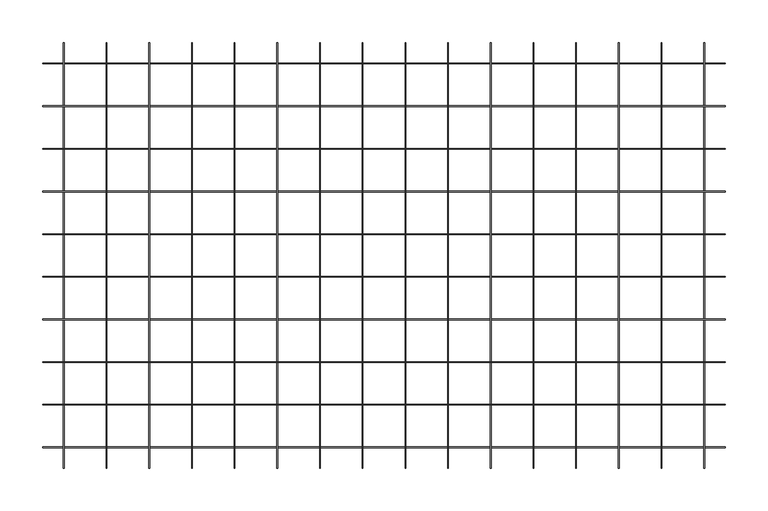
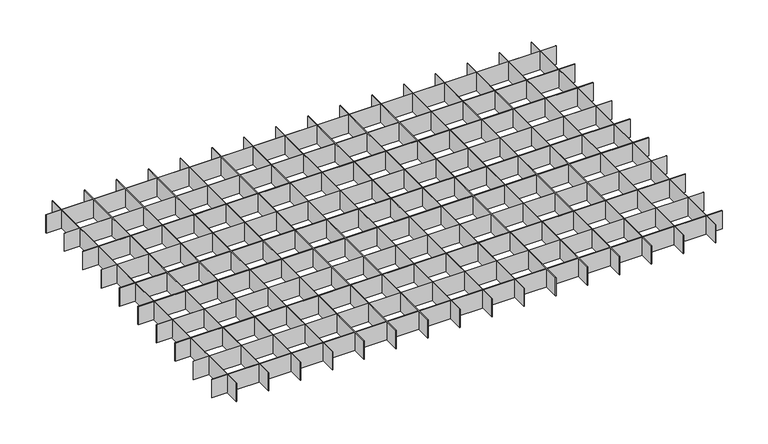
"""IFC4 building model written with IfcOpenShell, lengths in millimetres: proxy geometry, durlum_QUADRA_panel : durlum_QUADRA_corner_cut."""

from ifc_helpers import new_model, si_unit, origin, origin_with_axes, place, context, project, spatial, polyline, outline, extrude, source, transform, mapped, element, save


def generic_models_ab20c78c(model_context):
    return source(origin(), model_context, "Body", "SweptSolid", [
        extrude(outline(polyline([(324.6, 249.5), (325.4, 249.5), (325.4, -249.5), (324.6, -249.5), (324.6, 249.5)])), origin_with_axes(), (0.0, 0.0, 1.0), 30.0),
        extrude(outline(polyline([(399.75, -174.6), (399.75, -175.4), (-399.75, -175.4), (-399.75, -174.6), (399.75, -174.6)])), origin_with_axes(), (0.0, 0.0, 1.0), 30.0),
        extrude(outline(polyline([(399.75, -124.6), (399.75, -125.4), (-399.75, -125.4), (-399.75, -124.6), (399.75, -124.6)])), origin_with_axes(), (0.0, 0.0, 1.0), 30.0),
        extrude(outline(polyline([(274.6, 249.5), (275.4, 249.5), (275.4, -249.5), (274.6, -249.5), (274.6, 249.5)])), origin_with_axes(), (0.0, 0.0, 1.0), 30.0),
        extrude(outline(polyline([(224.6, 249.5), (225.4, 249.5), (225.4, -249.5), (224.6, -249.5), (224.6, 249.5)])), origin_with_axes(), (0.0, 0.0, 1.0), 30.0),
        extrude(outline(polyline([(174.6, 249.5), (175.4, 249.5), (175.4, -249.5), (174.6, -249.5), (174.6, 249.5)])), origin_with_axes(), (0.0, 0.0, 1.0), 30.0),
        extrude(outline(polyline([(124.6, 249.5), (125.4, 249.5), (125.4, -249.5), (124.6, -249.5), (124.6, 249.5)])), origin_with_axes(), (0.0, 0.0, 1.0), 30.0),
        extrude(outline(polyline([(74.6, 249.5), (75.4, 249.5), (75.4, -249.5), (74.6, -249.5), (74.6, 249.5)])), origin_with_axes(), (0.0, 0.0, 1.0), 30.0),
        extrude(outline(polyline([(24.6, 249.5), (25.4, 249.5), (25.4, -249.5), (24.6, -249.5), (24.6, 249.5)])), origin_with_axes(), (0.0, 0.0, 1.0), 30.0),
        extrude(outline(polyline([(-25.4, 249.5), (-24.6, 249.5), (-24.6, -249.5), (-25.4, -249.5), (-25.4, 249.5)])), origin_with_axes(), (0.0, 0.0, 1.0), 30.0),
        extrude(outline(polyline([(-75.4, 249.5), (-74.6, 249.5), (-74.6, -249.5), (-75.4, -249.5), (-75.4, 249.5)])), origin_with_axes(), (0.0, 0.0, 1.0), 30.0),
        extrude(outline(polyline([(-125.4, 249.5), (-124.6, 249.5), (-124.6, -249.5), (-125.4, -249.5), (-125.4, 249.5)])), origin_with_axes(), (0.0, 0.0, 1.0), 30.0),
        extrude(outline(polyline([(-175.4, 249.5), (-174.6, 249.5), (-174.6, -249.5), (-175.4, -249.5), (-175.4, 249.5)])), origin_with_axes(), (0.0, 0.0, 1.0), 30.0),
        extrude(outline(polyline([(-225.4, 249.5), (-224.6, 249.5), (-224.6, -249.5), (-225.4, -249.5), (-225.4, 249.5)])), origin_with_axes(), (0.0, 0.0, 1.0), 30.0),
        extrude(outline(polyline([(-275.4, 249.5), (-274.6, 249.5), (-274.6, -249.5), (-275.4, -249.5), (-275.4, 249.5)])), origin_with_axes(), (0.0, 0.0, 1.0), 30.0),
        extrude(outline(polyline([(-325.4, 249.5), (-324.6, 249.5), (-324.6, -249.5), (-325.4, -249.5), (-325.4, 249.5)])), origin_with_axes(), (0.0, 0.0, 1.0), 30.0),
        extrude(outline(polyline([(399.75, -74.6), (399.75, -75.4), (-399.75, -75.4), (-399.75, -74.6), (399.75, -74.6)])), origin_with_axes(), (0.0, 0.0, 1.0), 30.0),
        extrude(outline(polyline([(399.75, -24.6), (399.75, -25.4), (-399.75, -25.4), (-399.75, -24.6), (399.75, -24.6)])), origin_with_axes(), (0.0, 0.0, 1.0), 30.0),
        extrude(outline(polyline([(399.75, 25.4), (399.75, 24.6), (-399.75, 24.6), (-399.75, 25.4), (399.75, 25.4)])), origin_with_axes(), (0.0, 0.0, 1.0), 30.0),
        extrude(outline(polyline([(399.75, 75.4), (399.75, 74.6), (-399.75, 74.6), (-399.75, 75.4), (399.75, 75.4)])), origin_with_axes(), (0.0, 0.0, 1.0), 30.0),
        extrude(outline(polyline([(399.75, 125.4), (399.75, 124.6), (-399.75, 124.6), (-399.75, 125.4), (399.75, 125.4)])), origin_with_axes(), (0.0, 0.0, 1.0), 30.0),
        extrude(outline(polyline([(399.75, 175.4), (399.75, 174.6), (-399.75, 174.6), (-399.75, 175.4), (399.75, 175.4)])), origin_with_axes(), (0.0, 0.0, 1.0), 30.0),
        extrude(outline(polyline([(374.6, 249.5), (375.4, 249.5), (375.4, -249.5), (374.6, -249.5), (374.6, 249.5)])), origin_with_axes(), (0.0, 0.0, 1.0), 30.0),
        extrude(outline(polyline([(-375.4, 249.5), (-374.6, 249.5), (-374.6, -249.5), (-375.4, -249.5), (-375.4, 249.5)])), origin_with_axes(), (0.0, 0.0, 1.0), 30.0),
        extrude(outline(polyline([(399.75, -224.6), (399.75, -225.4), (-399.75, -225.4), (-399.75, -224.6), (399.75, -224.6)])), origin_with_axes(), (0.0, 0.0, 1.0), 30.0),
        extrude(outline(polyline([(399.75, 225.4), (399.75, 224.6), (-399.75, 224.6), (-399.75, 225.4), (399.75, 225.4)])), origin_with_axes(), (0.0, 0.0, 1.0), 30.0),
    ])


if __name__ == "__main__":
    model = new_model("IFC4")
    model_context = context("Model", 3, world=origin())
    ifc_project = project(units=[si_unit("LENGTHUNIT", "METRE", prefix="MILLI")], contexts=[model_context])
    site = spatial("IfcSite", under=ifc_project)
    building = spatial("IfcBuilding", under=site)
    placement = place(None, origin())
    generic_models_shape = generic_models_ab20c78c(model_context)
    element("IfcBuildingElementProxy", 1, Name="durlum_QUADRA_panel : durlum_QUADRA_corner_cut", ObjectType="durlum_QUADRA_panel : durlum_QUADRA_corner_cut", at=placement, inside=building, context=model_context, shape_type="MappedRepresentation", body=[
        mapped(generic_models_shape, transform((0.0, 0.0, 0.0), x_axis=(1.0, 0.0, 0.0), y_axis=(0.0, 1.0, 0.0), z_axis=(0.0, 0.0, 1.0))),
    ])
    save(model, "model.ifc")
